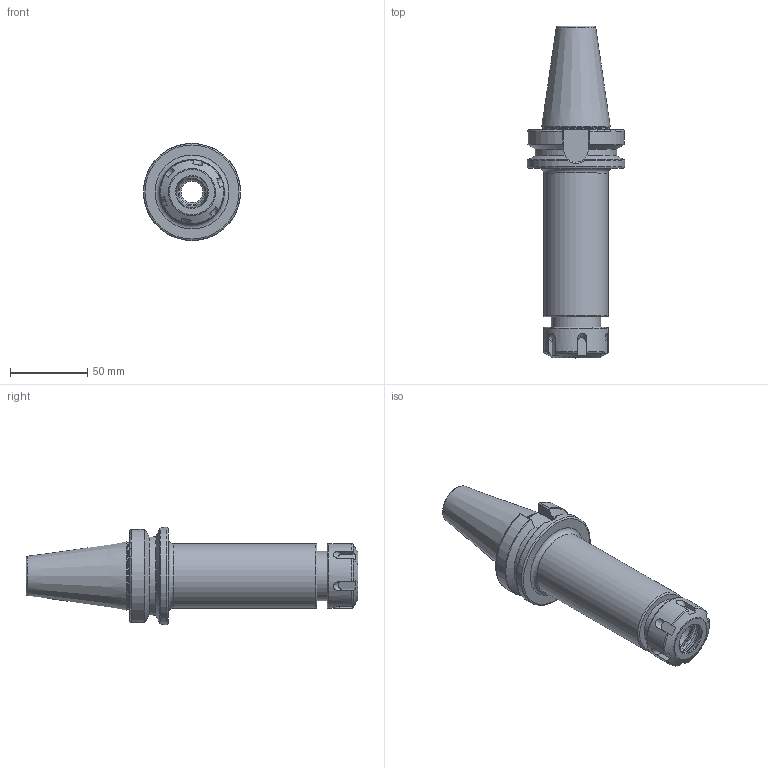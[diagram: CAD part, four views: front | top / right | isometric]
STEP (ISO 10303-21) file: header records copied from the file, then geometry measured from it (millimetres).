
FILE_DESCRIPTION(/* description */ (''),/* implementation_level */ '2;1');
FILE_NAME(/* name */ 'I:\2.客户确认模型及简图\2021.05.02---美国HAAS\BT40-ER25-150.stp',/* time_stamp */ '2021-05-02T13:08:57+08:00',/* author */ ('Administrator'),/* organization */ (''),/* preprocessor_version */ 'ST-DEVELOPER v18.1',/* originating_system */ 'Autodesk Inventor 2021',/* authorisation */ '');
FILE_SCHEMA (('AUTOMOTIVE_DESIGN { 1 0 10303 214 3 1 1 }'));
Length unit declared in the file: millimetre
Products named in the file (3): BT40-ER25-150; BT40-ER25-150_1; ER25UM压帽
Assembly tree (2 placements, depth 2):
  BT40-ER25-150
    BT40-ER25-150_1
    ER25UM压帽
Bounding box: 63 x 215.4 x 63 mm (x, y, z)
Volume: 249563.9 mm3; surface area: 48723.8 mm2
Topology: 2 solids, 2 shells, 129 faces, 373 edges, 257 vertices
Faces by surface type: plane 48, torus 24, cylinder 23, cone 18, bspline 16
Full cylindrical faces by diameter (mm): 14 x1, 16.376 x1, 17 x1, 18 x1, 18.3 x1, 20.7 x1, 25.7 x1, 29 x1, 30 x1, 30.376 x1, 32 x1, 32.5 x1, 42 x2, 43.5 x1, 63 x1
Entity records: 5222 total; most frequent: CARTESIAN_POINT 1788, ORIENTED_EDGE 746, DIRECTION 678, EDGE_CURVE 373, AXIS2_PLACEMENT_3D 280, VERTEX_POINT 257, CIRCLE 162, EDGE_LOOP 142
